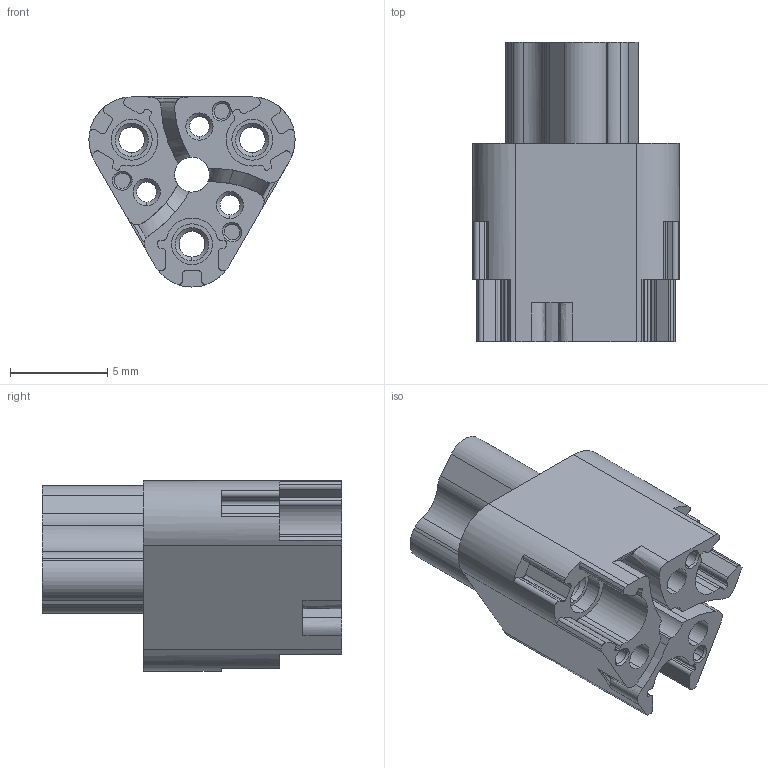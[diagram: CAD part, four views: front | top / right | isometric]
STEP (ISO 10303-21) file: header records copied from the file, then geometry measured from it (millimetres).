
FILE_DESCRIPTION (( 'STEP AP214' ), '1' );
FILE_NAME ('TRL-0033-A.STEP', '2021-06-25T18:27:28', ( '' ), ( '' ), 'SwSTEP 2.0', 'SolidWorks 2016', '' );
FILE_SCHEMA (( 'AUTOMOTIVE_DESIGN' ));
Length unit declared in the file: millimetre
Products named in the file (1): TRL-0033-A
Bounding box: 10.6 x 15.4 x 9.77 mm (x, y, z)
Volume: 589 mm3; surface area: 1151.7 mm2
Topology: 1 solids, 1 shells, 250 faces, 716 edges, 474 vertices
Faces by surface type: cylinder 119, plane 92, bspline 27, cone 12
Entity records: 11611 total; most frequent: CARTESIAN_POINT 5145, ORIENTED_EDGE 1432, DIRECTION 1278, EDGE_CURVE 716, VERTEX_POINT 474, AXIS2_PLACEMENT_3D 470, LINE 338, VECTOR 338
